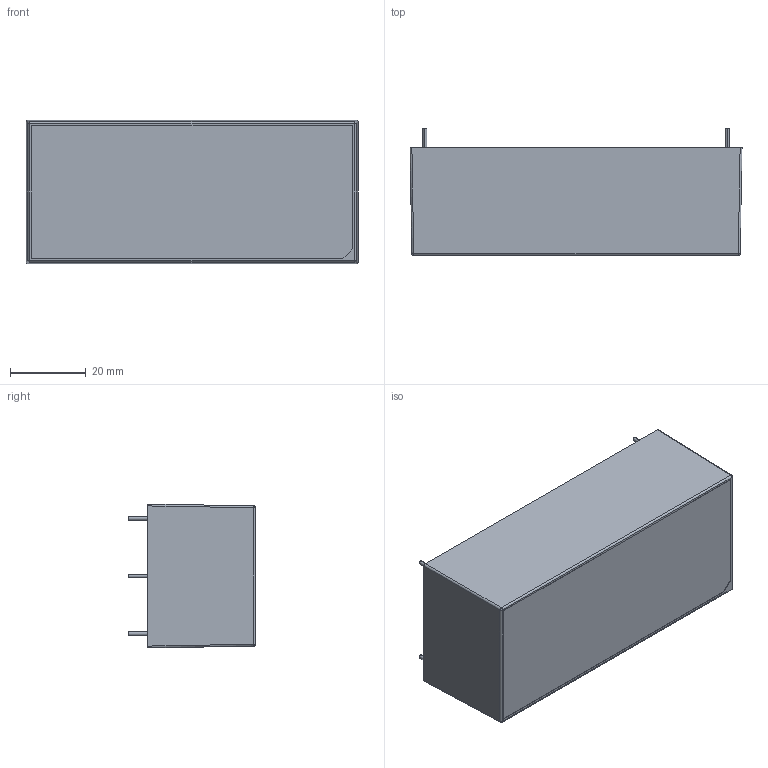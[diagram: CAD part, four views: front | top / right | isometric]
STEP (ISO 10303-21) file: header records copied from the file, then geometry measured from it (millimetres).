
FILE_DESCRIPTION (( 'STEP AP214' ), '1' );
FILE_NAME ('VCE40-E¦¨«~¹Ï(02)-1070925.STEP', '2019-07-02T02:51:14', ( '' ), ( '' ), 'SwSTEP 2.0', 'SolidWorks 2017', '' );
FILE_SCHEMA (( 'AUTOMOTIVE_DESIGN' ));
Length unit declared in the file: millimetre
Products named in the file (7): VCE40 CASE G511C220032 (M-G087-00-M)-1080108; VCE40灌膠口; VCE40 BASE G521F020028 (M-G088-00-M)-1080108; VCE40-E成品圖(02)-1070925; VCE40 圓PIN示意圖-1070925; VCE40 PCB-1070809-A
Assembly tree (9 placements, depth 3):
  VCE40-E成品圖(02)-1070925
    VCE40 CASE G511C220032 (M-G087-00-M)-1080108
    VCE40 BASE G521F020028 (M-G088-00-M)-1080108
      VCE40 BASE G521F020028 (M-G088-00-M)-1080108
    VCE40 PCB-1070809-A
    VCE40 圓PIN示意圖-1070925  x4
    VCE40灌膠口
Bounding box: 87.88 x 33.55 x 38.1 mm (x, y, z)
Volume: 34123.1 mm3; surface area: 35419.7 mm2
Topology: 8 solids, 8 shells, 211 faces, 541 edges, 354 vertices
Faces by surface type: plane 171, cylinder 28, cone 8, sphere 4
Entity records: 6151 total; most frequent: CARTESIAN_POINT 1046, ORIENTED_EDGE 1002, DIRECTION 947, EDGE_CURVE 501, LINE 453, VECTOR 453, VERTEX_POINT 330, AXIS2_PLACEMENT_3D 247
